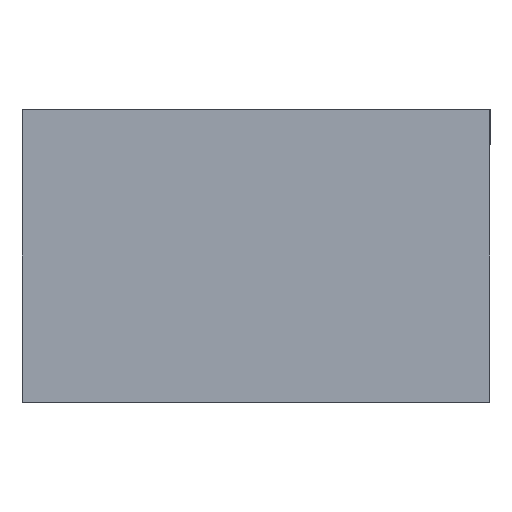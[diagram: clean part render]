
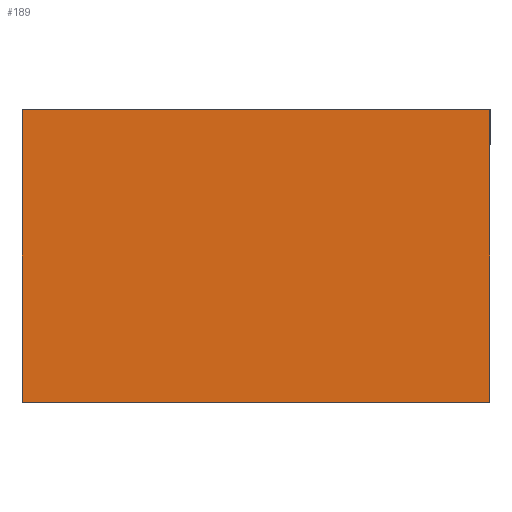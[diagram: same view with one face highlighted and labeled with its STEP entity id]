
A CAD part, front view. The second image highlights one B-rep face of the part: STEP entity #189.
In plain terms, the highlighted planar face has unit normal (0, -1, 0).
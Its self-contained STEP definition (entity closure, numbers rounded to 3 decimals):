
#23=FACE_OUTER_BOUND('',#33,.T.);
#33=EDGE_LOOP('',(#163,#164,#165,#166));
#38=LINE('',#270,#62);
#42=LINE('',#279,#66);
#57=LINE('',#308,#81);
#58=LINE('',#310,#82);
#62=VECTOR('',#222,10.);
#66=VECTOR('',#230,10.);
#81=VECTOR('',#255,10.);
#82=VECTOR('',#258,10.);
#84=VERTEX_POINT('',#264);
#86=VERTEX_POINT('',#268);
#89=VERTEX_POINT('',#278);
#98=VERTEX_POINT('',#306);
#102=EDGE_CURVE('',#84,#86,#38,.T.);
#106=EDGE_CURVE('',#84,#89,#42,.T.);
#121=EDGE_CURVE('',#86,#98,#57,.T.);
#122=EDGE_CURVE('',#89,#98,#58,.T.);
#163=ORIENTED_EDGE('',*,*,#102,.T.);
#164=ORIENTED_EDGE('',*,*,#121,.T.);
#165=ORIENTED_EDGE('',*,*,#122,.F.);
#166=ORIENTED_EDGE('',*,*,#106,.F.);
#179=PLANE('',#213);
#189=ADVANCED_FACE('',(#23),#179,.T.);
#213=AXIS2_PLACEMENT_3D('',#309,#256,#257);
#222=DIRECTION('',(1.,0.,0.));
#230=DIRECTION('',(0.,0.,1.));
#255=DIRECTION('',(0.,0.,1.));
#256=DIRECTION('center_axis',(0.,-1.,0.));
#257=DIRECTION('ref_axis',(1.,0.,0.));
#258=DIRECTION('',(1.,0.,0.));
#264=CARTESIAN_POINT('',(-40.,-40.,2.));
#268=CARTESIAN_POINT('',(40.,-40.,2.));
#270=CARTESIAN_POINT('',(-20.,-40.,2.));
#278=CARTESIAN_POINT('',(-40.,-40.,52.));
#279=CARTESIAN_POINT('',(-40.,-40.,0.));
#306=CARTESIAN_POINT('',(40.,-40.,52.));
#308=CARTESIAN_POINT('',(40.,-40.,0.));
#309=CARTESIAN_POINT('Origin',(-40.,-40.,0.));
#310=CARTESIAN_POINT('',(40.,-40.,52.));
